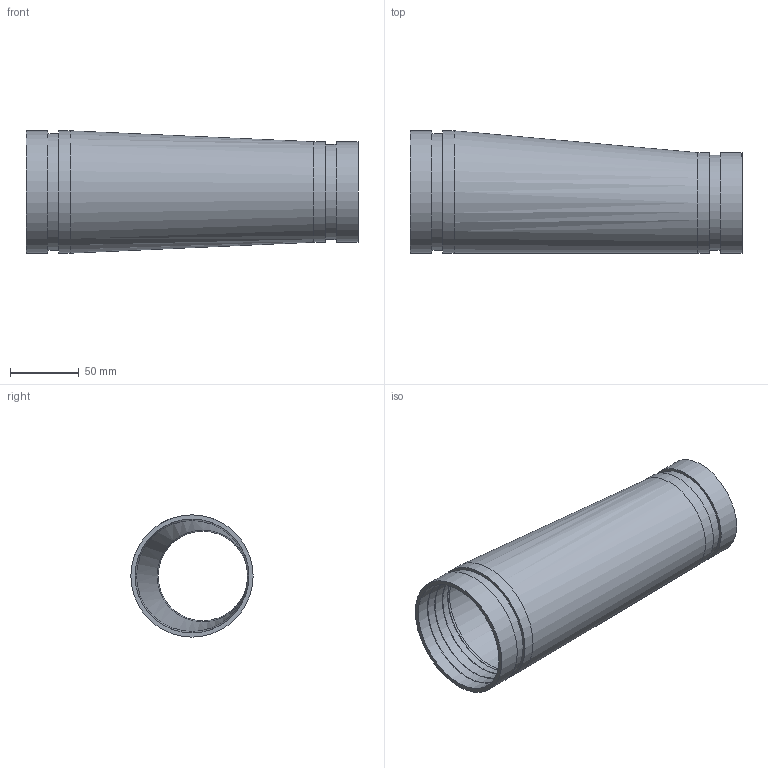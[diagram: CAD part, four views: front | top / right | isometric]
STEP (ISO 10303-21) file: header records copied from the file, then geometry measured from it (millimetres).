
FILE_DESCRIPTION(/* description */ ('VIC REDUCER ECCENTRIC No 451H-SS','CAx-IF Rec.Pracs.---Representation and Presentation of Product Manufacturing Information (PMI)---4.0---2014-10-13'),/* implementation_level */ '2;1');
FILE_NAME(/* name */ 'C:\Users\kkamble\AppData\Roaming\Autodesk\ApplicationPlugins\Back Up\Victaulic_SS-OGS_Reducer Eccentric_Sched 40S_No 451H SS (OGS)\Victaulic_SS-OGS_Reducer Eccentric_Sched 40S_No 451H SS (OGS)_03.0x02.5 (80x65).stp',/* time_stamp */ '2020-08-25T18:05:43+06:00',/* author */ ('CORINNE GRAY'),/* organization */ ('Victaulic'),/* preprocessor_version */ 'ST-DEVELOPER v17.2',/* originating_system */ 'Autodesk Inventor 2019',/* authorisation */ '');
FILE_SCHEMA (('AP242_MANAGED_MODEL_BASED_3D_ENGINEERING_MIM_LF { 1 0 10303 442 1 1 4 }'));
Length unit declared in the file: inch
Products named in the file (1): 451H SS-03.0x02.5
Bounding box: 241.3 x 88.9 x 88.9 mm (x, y, z)
Volume: 177442.8 mm3; surface area: 121435.6 mm2
Topology: 1 solids, 1 shells, 32 faces, 111 edges, 85 vertices
Faces by surface type: cylinder 12, torus 8, plane 6, cone 4, bspline 2
Full cylindrical faces by diameter (mm): 65.024 x1, 67.056 x2, 69.088 x1, 73.025 x2, 80.67 x1, 82.804 x2, 84.938 x1, 88.9 x2
Entity records: 1504 total; most frequent: DIRECTION 290, CARTESIAN_POINT 282, ORIENTED_EDGE 222, AXIS2_PLACEMENT_3D 137, EDGE_CURVE 111, CIRCLE 93, VERTEX_POINT 85, EDGE_LOOP 38
